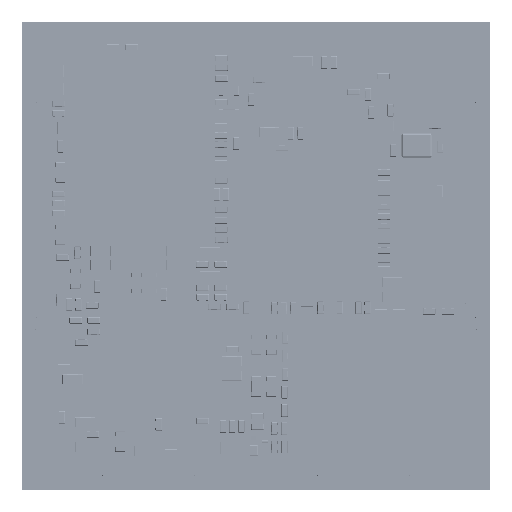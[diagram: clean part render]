
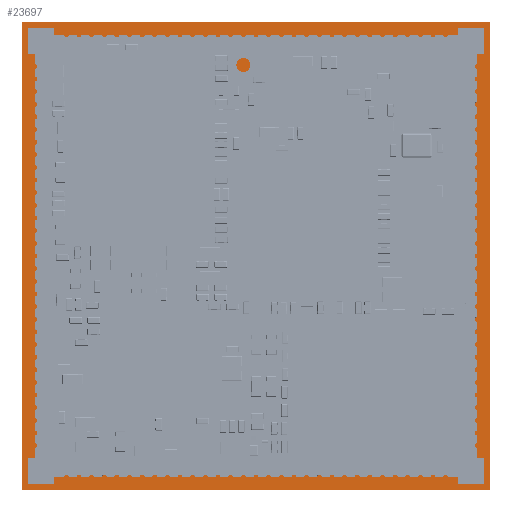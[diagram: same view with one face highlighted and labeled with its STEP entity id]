
A CAD part, top view. The second image highlights one B-rep face of the part: STEP entity #23697.
In plain terms, the highlighted planar face has unit normal (0, 0, 1) as drawn and (0, 0, -1) by its records, which use the part's own axes.
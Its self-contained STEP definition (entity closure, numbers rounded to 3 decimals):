
#23697=ADVANCED_FACE('',(#43698),#43699,.T.);
#43698=FACE_OUTER_BOUND('',#63360,.T.);
#43699=PLANE('',#63361);
#63360=EDGE_LOOP('',(#102639,#102640,#102641,#102642));
#63361=AXIS2_PLACEMENT_3D('',#102643,#102644,#102645);
#102639=ORIENTED_EDGE('',*,*,#117411,.T.);
#102640=ORIENTED_EDGE('',*,*,#117412,.T.);
#102641=ORIENTED_EDGE('',*,*,#117413,.T.);
#102642=ORIENTED_EDGE('',*,*,#117414,.T.);
#102643=CARTESIAN_POINT('',(0.,0.0,0.0));
#102644=DIRECTION('',(-0.0,0.0,-1.0));
#102645=DIRECTION('',(-1.0,0.0,0.0));
#117411=EDGE_CURVE('',#137813,#137814,#137815,.T.);
#117412=EDGE_CURVE('',#137814,#137816,#137817,.T.);
#117413=EDGE_CURVE('',#137816,#137818,#137819,.T.);
#117414=EDGE_CURVE('',#137818,#137813,#137820,.T.);
#137813=VERTEX_POINT('',#164783);
#137814=VERTEX_POINT('',#164784);
#137815=LINE('',#164785,#164786);
#137816=VERTEX_POINT('',#164787);
#137817=LINE('',#164788,#164789);
#137818=VERTEX_POINT('',#164790);
#137819=LINE('',#164791,#164792);
#137820=LINE('',#164793,#164794);
#164783=CARTESIAN_POINT('',(18.5,18.5,0.0));
#164784=CARTESIAN_POINT('',(18.5,-18.5,0.0));
#164785=CARTESIAN_POINT('',(18.5,18.5,0.0));
#164786=VECTOR('',#178596,1.0);
#164787=CARTESIAN_POINT('',(-18.5,-18.5,0.0));
#164788=CARTESIAN_POINT('',(18.5,-18.5,0.0));
#164789=VECTOR('',#178597,1.0);
#164790=CARTESIAN_POINT('',(-18.5,18.5,0.0));
#164791=CARTESIAN_POINT('',(-18.5,-18.5,0.0));
#164792=VECTOR('',#178598,1.0);
#164793=CARTESIAN_POINT('',(-18.5,18.5,0.0));
#164794=VECTOR('',#178599,1.0);
#178596=DIRECTION('',(0.0,-1.0,0.0));
#178597=DIRECTION('',(-1.0,0.0,0.0));
#178598=DIRECTION('',(0.0,1.0,0.0));
#178599=DIRECTION('',(1.0,0.0,0.0));
